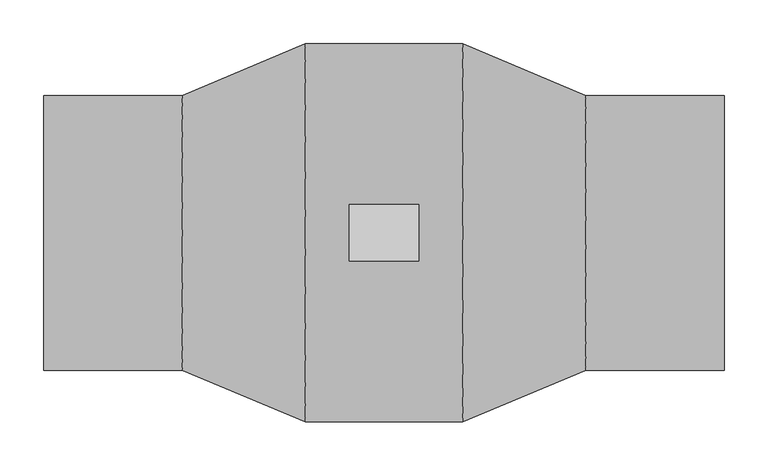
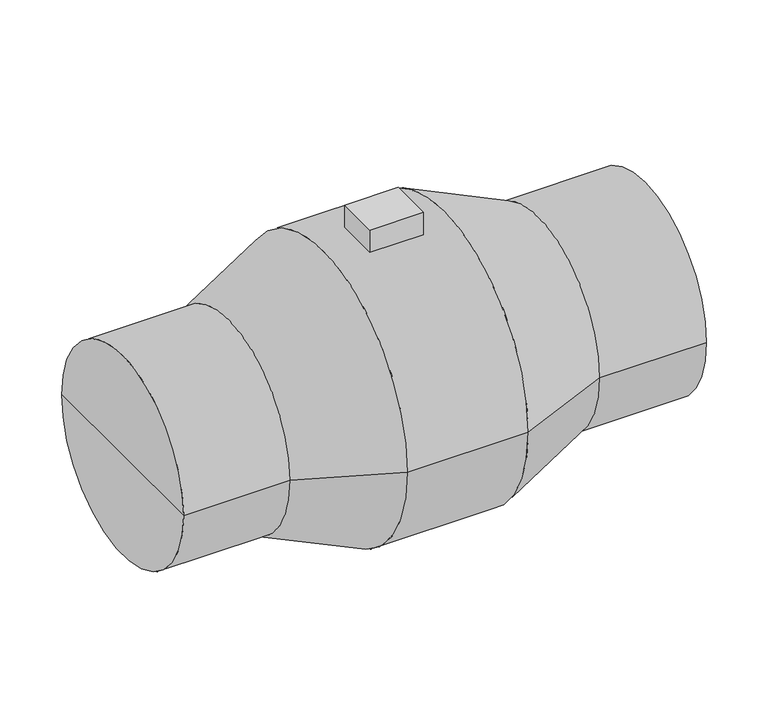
"""IFC4 building model written with IfcOpenShell, lengths in millimetres: proxy geometry, AI_Eqpmt genie clim_Canalfast 315 : AI_Eqpmt genie clim_Canalfast 315."""

from ifc_helpers import new_model, si_unit, frame, origin, place, context, project, spatial, polyline, circle_curve, outline, extrude, source, transform, mapped, element, save
from ifc_brep_helpers import plane_surface, cylinder_surface, revolved_surface, advanced_brep


def mechanical_equipment_63d25aae(model_context):
    return source(origin(), model_context, "Body", "SolidModel", [
        extrude(outline(polyline([(40.0, 32.5), (40.0, -32.5), (-40.0, -32.5), (-40.0, 32.5), (40.0, 32.5)])), frame((0.0, 0.0, 217.0), z_axis=(0.0, 0.0, 1.0), x_axis=(1.0, 0.0, 0.0)), (0.0, 0.0, 1.0), 35.4432648),
        advanced_brep(
        [(390.0, -157.5, 0.0), (390.0, 157.5, 0.0), (390.0, 0.0, 0.0), (231.1550907, -157.5, 0.0), (231.1550907, 157.5, 0.0), (90.0, -217.0, 0.0), (90.0, 217.0, 0.0), (-90.0, -217.0, 0.0), (-90.0, 217.0, 0.0), (-231.1550907, -157.5, 0.0), (-231.1550907, 157.5, 0.0), (-390.0, -157.5, 0.0), (-390.0, 157.5, 0.0), (-390.0, 0.0, 0.0)],
        [
            (0, 1, circle_curve(frame((390.0, 0.0, 0.0), z_axis=(1.0, 0.0, 0.0), x_axis=(0.0, 1.0, 0.0)), 157.5)),
            (1, 2),
            (2, 0),
            (1, 0, circle_curve(frame((390.0, 0.0, 0.0), z_axis=(1.0, 0.0, 0.0), x_axis=(0.0, 1.0, 0.0)), 157.5)),
            (3, 4, circle_curve(frame((231.1550907, 0.0, 0.0), z_axis=(1.0, 0.0, 0.0), x_axis=(0.0, 1.0, 0.0)), 157.5)),
            (4, 1),
            (0, 3),
            (4, 3, circle_curve(frame((231.1550907, 0.0, 0.0), z_axis=(1.0, 0.0, 0.0), x_axis=(0.0, 1.0, 0.0)), 157.5)),
            (5, 6, circle_curve(frame((90.0, 0.0, 0.0), z_axis=(1.0, 0.0, 0.0), x_axis=(0.0, 1.0, 0.0)), 217.0)),
            (6, 4),
            (3, 5),
            (6, 5, circle_curve(frame((90.0, 0.0, 0.0), z_axis=(1.0, 0.0, 0.0), x_axis=(0.0, 1.0, 0.0)), 217.0)),
            (7, 8, circle_curve(frame((-90.0, 0.0, 0.0), z_axis=(1.0, 0.0, 0.0), x_axis=(0.0, 1.0, 0.0)), 217.0)),
            (8, 6),
            (5, 7),
            (8, 7, circle_curve(frame((-90.0, 0.0, 0.0), z_axis=(1.0, 0.0, 0.0), x_axis=(0.0, 1.0, 0.0)), 217.0)),
            (9, 10, circle_curve(frame((-231.1550907, 0.0, 0.0), z_axis=(1.0, 0.0, 0.0), x_axis=(0.0, 1.0, 0.0)), 157.5)),
            (10, 8),
            (7, 9),
            (10, 9, circle_curve(frame((-231.1550907, 0.0, 0.0), z_axis=(1.0, 0.0, 0.0), x_axis=(0.0, 1.0, 0.0)), 157.5)),
            (11, 12, circle_curve(frame((-390.0, 0.0, 0.0), z_axis=(1.0, 0.0, 0.0), x_axis=(0.0, 1.0, 0.0)), 157.5)),
            (12, 10),
            (9, 11),
            (12, 11, circle_curve(frame((-390.0, 0.0, 0.0), z_axis=(1.0, 0.0, 0.0), x_axis=(0.0, 1.0, 0.0)), 157.5)),
            (13, 12),
            (11, 13),
        ],
        [
            plane_surface(frame((390.0, 0.0, 0.0), z_axis=(1.0, 0.0, 0.0), x_axis=(0.0, 1.0, 0.0))),
            cylinder_surface(frame((430.0, 0.0, 0.0), z_axis=(-1.0, 0.0, 0.0), x_axis=(0.0, 1.0, 0.0)), 157.5),
            revolved_surface(polyline([(231.1550907, 157.5, 0.0), (90.0, 217.0, 0.0)]), (430.0, 0.0, 0.0), (-1.0, 0.0, 0.0)),
            cylinder_surface(frame((430.0, 0.0, 0.0), z_axis=(-1.0, 0.0, 0.0), x_axis=(0.0, 1.0, 0.0)), 217.0),
            revolved_surface(polyline([(-90.0, 217.0, 0.0), (-231.1550907, 157.5, 0.0)]), (430.0, 0.0, 0.0), (-1.0, 0.0, 0.0)),
            plane_surface(frame((-390.0, 0.0, 0.0), z_axis=(-1.0, 0.0, 0.0), x_axis=(0.0, 1.0, 0.0))),
        ],
        [
            (0, [[1, 2, 3]]),
            (0, [[4, -3, -2]]),
            (1, [[5, 6, -1, 7]]),
            (1, [[8, -7, -4, -6]]),
            (2, [[9, 10, -5, 11]]),
            (2, [[12, -11, -8, -10]]),
            (3, [[13, 14, -9, 15]]),
            (3, [[16, -15, -12, -14]]),
            (4, [[17, 18, -13, 19]]),
            (4, [[20, -19, -16, -18]]),
            (1, [[21, 22, -17, 23]]),
            (1, [[24, -23, -20, -22]]),
            (5, [[25, -21, 26]]),
            (5, [[-26, -24, -25]]),
        ],
    ),
    ])


if __name__ == "__main__":
    model = new_model("IFC4")
    model_context = context("Model", 3, world=origin())
    ifc_project = project(units=[si_unit("LENGTHUNIT", "METRE", prefix="MILLI")], contexts=[model_context])
    site = spatial("IfcSite", under=ifc_project)
    building = spatial("IfcBuilding", under=site)
    placement = place(None, origin())
    mechanical_equipment_shape = mechanical_equipment_63d25aae(model_context)
    element("IfcBuildingElementProxy", 1, Name="AI_Eqpmt genie clim_Canalfast 315 : AI_Eqpmt genie clim_Canalfast 315", ObjectType="AI_Eqpmt genie clim_Canalfast 315 : AI_Eqpmt genie clim_Canalfast 315", at=placement, inside=building, context=model_context, shape_type="MappedRepresentation", body=[
        mapped(mechanical_equipment_shape, transform((0.0, 0.0, 0.0), x_axis=(1.0, 0.0, 0.0), y_axis=(0.0, 1.0, 0.0), z_axis=(0.0, 0.0, 1.0))),
    ])
    save(model, "model.ifc")
